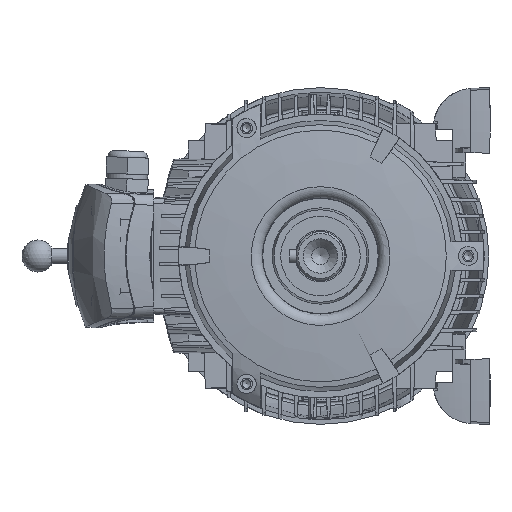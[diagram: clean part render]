
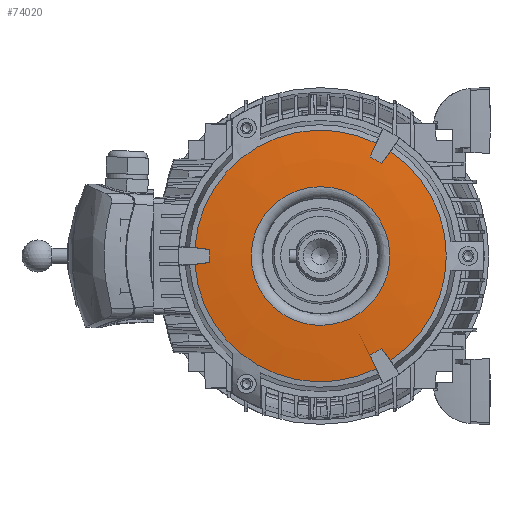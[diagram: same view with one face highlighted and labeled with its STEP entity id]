
A CAD part, left-side view. The second image highlights one B-rep face of the part: STEP entity #74020.
In plain terms, the highlighted free-form (B-spline) face has degree [2, 2] with [3, 9] control points.
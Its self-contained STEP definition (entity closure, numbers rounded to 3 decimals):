
#73668=CARTESIAN_POINT('',(-87.935,-43.26,28.573));
#73669=VERTEX_POINT('',#73668);
#73677=CARTESIAN_POINT('',(-6.504,97.784,28.573));
#73678=VERTEX_POINT('',#73677);
#73679=CARTESIAN_POINT('',(0.0,0.0,28.573));
#73680=DIRECTION('',(0.0,0.0,-1.0));
#73681=DIRECTION('',(-1.0,0.0,0.0));
#73682=AXIS2_PLACEMENT_3D('',#73679,#73680,#73681);
#73683=CIRCLE('',#73682,98.);
#73684=EDGE_CURVE('',#73669,#73678,#73683,.T.);
#73874=CARTESIAN_POINT('',(-98.061,0.,28.565));
#73875=CARTESIAN_POINT('',(-49.199,0.,35.056));
#73876=CARTESIAN_POINT('',(0.,0.,32.056));
#73877=CARTESIAN_POINT('',(-98.061,98.061,28.565));
#73878=CARTESIAN_POINT('',(-49.199,49.199,35.056));
#73879=CARTESIAN_POINT('',(0.,0.,32.056));
#73880=CARTESIAN_POINT('',(0.,98.061,28.565));
#73881=CARTESIAN_POINT('',(0.,49.199,35.056));
#73882=CARTESIAN_POINT('',(0.,0.,32.056));
#73883=CARTESIAN_POINT('',(98.061,98.061,28.565));
#73884=CARTESIAN_POINT('',(49.199,49.199,35.056));
#73885=CARTESIAN_POINT('',(0.,0.,32.056));
#73886=CARTESIAN_POINT('',(98.061,0.,28.565));
#73887=CARTESIAN_POINT('',(49.199,0.,35.056));
#73888=CARTESIAN_POINT('',(0.,0.,32.056));
#73889=CARTESIAN_POINT('',(98.061,-98.061,28.565));
#73890=CARTESIAN_POINT('',(49.199,-49.199,35.056));
#73891=CARTESIAN_POINT('',(0.,0.,32.056));
#73892=CARTESIAN_POINT('',(0.,-98.061,28.565));
#73893=CARTESIAN_POINT('',(0.,-49.199,35.056));
#73894=CARTESIAN_POINT('',(0.,0.,32.056));
#73895=CARTESIAN_POINT('',(-98.061,-98.061,28.565));
#73896=CARTESIAN_POINT('',(-49.199,-49.199,35.056));
#73897=CARTESIAN_POINT('',(0.,0.,32.056));
#73898=CARTESIAN_POINT('',(-98.061,0.,28.565));
#73899=CARTESIAN_POINT('',(-49.199,0.,35.056));
#73900=CARTESIAN_POINT('',(0.,0.,32.056));
#73908=(BOUNDED_SURFACE()B_SPLINE_SURFACE(2,2,((#73874,#73877,#73880,#73883,#73886,#73889,#73892,#73895,#73898),(#73875,#73878,#73881,#73884,#73887,#73890,#73893,#73896,#73899),(#73876,#73879,#73882,#73885,#73888,#73891,#73894,#73897,#73900)),.UNSPECIFIED.,.F.,.T.,.U.)B_SPLINE_SURFACE_WITH_KNOTS((3,3),(3,2,2,2,3),(1.439,1.632),(0.0,1.571,3.142,4.712,6.283),.UNSPECIFIED.)GEOMETRIC_REPRESENTATION_ITEM()RATIONAL_B_SPLINE_SURFACE(((1.0,0.707,1.0,0.707,1.0,0.707,1.0,0.707,1.0),(0.995,0.704,0.995,0.704,0.995,0.704,0.995,0.704,0.995),(1.0,0.707,1.0,0.707,1.0,0.707,1.0,0.707,1.0)))REPRESENTATION_ITEM('')SURFACE());
#73909=CARTESIAN_POINT('',(54.,0.0,32.48));
#73910=VERTEX_POINT('',#73909);
#73911=CARTESIAN_POINT('',(0.0,0.0,32.48));
#73912=DIRECTION('',(0.0,0.0,-1.0));
#73913=DIRECTION('',(1.0,0.0,0.0));
#73914=AXIS2_PLACEMENT_3D('',#73911,#73912,#73913);
#73915=CIRCLE('',#73914,54.);
#73916=EDGE_CURVE('',#73910,#73910,#73915,.T.);
#73917=ORIENTED_EDGE('',*,*,#73916,.T.);
#73918=EDGE_LOOP('',(#73917));
#73919=FACE_OUTER_BOUND('',#73918,.T.);
#73920=CARTESIAN_POINT('',(6.504,97.784,28.573));
#73921=VERTEX_POINT('',#73920);
#73922=CARTESIAN_POINT('',(87.935,-43.26,28.573));
#73923=VERTEX_POINT('',#73922);
#73924=CARTESIAN_POINT('',(0.0,0.0,28.573));
#73925=DIRECTION('',(0.0,0.0,-1.0));
#73926=DIRECTION('',(-1.0,0.0,0.0));
#73927=AXIS2_PLACEMENT_3D('',#73924,#73925,#73926);
#73928=CIRCLE('',#73927,98.);
#73929=EDGE_CURVE('',#73921,#73923,#73928,.T.);
#73930=ORIENTED_EDGE('',*,*,#73929,.F.);
#73931=CARTESIAN_POINT('',(5.03,86.049,30.));
#73932=VERTEX_POINT('',#73931);
#73933=CARTESIAN_POINT('',(5.03,86.049,30.));
#73934=CARTESIAN_POINT('',(5.676,89.945,29.572));
#73935=CARTESIAN_POINT('',(6.167,93.86,29.096));
#73936=CARTESIAN_POINT('',(6.504,97.784,28.573));
#73937=B_SPLINE_CURVE_WITH_KNOTS('',3,(#73933,#73934,#73935,#73936),.UNSPECIFIED.,.F.,.U.,(4,4),(56.172,57.362),.UNSPECIFIED.);
#73938=EDGE_CURVE('',#73932,#73921,#73937,.T.);
#73939=ORIENTED_EDGE('',*,*,#73938,.F.);
#73940=CARTESIAN_POINT('',(-5.03,86.049,30.));
#73941=VERTEX_POINT('',#73940);
#73942=CARTESIAN_POINT('',(0.0,0.0,30.));
#73943=DIRECTION('',(0.0,0.0,-1.0));
#73944=DIRECTION('',(1.0,0.0,0.0));
#73945=AXIS2_PLACEMENT_3D('',#73942,#73943,#73944);
#73946=CIRCLE('',#73945,86.196);
#73947=EDGE_CURVE('',#73941,#73932,#73946,.T.);
#73948=ORIENTED_EDGE('',*,*,#73947,.F.);
#73949=CARTESIAN_POINT('',(-6.504,97.784,28.573));
#73950=CARTESIAN_POINT('',(-6.167,93.86,29.096));
#73951=CARTESIAN_POINT('',(-5.676,89.946,29.572));
#73952=CARTESIAN_POINT('',(-5.03,86.049,30.));
#73953=B_SPLINE_CURVE_WITH_KNOTS('',3,(#73949,#73950,#73951,#73952),.UNSPECIFIED.,.F.,.U.,(4,4),(40.111,41.304),.UNSPECIFIED.);
#73954=EDGE_CURVE('',#73678,#73941,#73953,.T.);
#73955=ORIENTED_EDGE('',*,*,#73954,.F.);
#73956=ORIENTED_EDGE('',*,*,#73684,.F.);
#73957=CARTESIAN_POINT('',(-77.036,-38.668,30.));
#73958=VERTEX_POINT('',#73957);
#73959=CARTESIAN_POINT('',(-77.036,-38.668,30.));
#73960=CARTESIAN_POINT('',(-80.733,-40.057,29.572));
#73961=CARTESIAN_POINT('',(-84.368,-41.59,29.096));
#73962=CARTESIAN_POINT('',(-87.935,-43.26,28.573));
#73963=B_SPLINE_CURVE_WITH_KNOTS('',3,(#73959,#73960,#73961,#73962),.UNSPECIFIED.,.F.,.U.,(4,4),(56.172,57.362),.UNSPECIFIED.);
#73964=EDGE_CURVE('',#73958,#73669,#73963,.T.);
#73965=ORIENTED_EDGE('',*,*,#73964,.F.);
#73966=CARTESIAN_POINT('',(-72.005,-47.381,30.));
#73967=VERTEX_POINT('',#73966);
#73968=CARTESIAN_POINT('',(0.0,0.0,30.));
#73969=DIRECTION('',(0.0,0.0,-1.0));
#73970=DIRECTION('',(1.0,0.0,0.0));
#73971=AXIS2_PLACEMENT_3D('',#73968,#73969,#73970);
#73972=CIRCLE('',#73971,86.196);
#73973=EDGE_CURVE('',#73967,#73958,#73972,.T.);
#73974=ORIENTED_EDGE('',*,*,#73973,.F.);
#73975=CARTESIAN_POINT('',(-81.432,-54.524,28.573));
#73976=VERTEX_POINT('',#73975);
#73977=CARTESIAN_POINT('',(-81.432,-54.524,28.573));
#73978=CARTESIAN_POINT('',(-78.202,-52.271,29.096));
#73979=CARTESIAN_POINT('',(-75.057,-49.888,29.572));
#73980=CARTESIAN_POINT('',(-72.005,-47.381,30.));
#73981=B_SPLINE_CURVE_WITH_KNOTS('',3,(#73977,#73978,#73979,#73980),.UNSPECIFIED.,.F.,.U.,(4,4),(40.111,41.304),.UNSPECIFIED.);
#73982=EDGE_CURVE('',#73976,#73967,#73981,.T.);
#73983=ORIENTED_EDGE('',*,*,#73982,.F.);
#73984=CARTESIAN_POINT('',(81.432,-54.524,28.573));
#73985=VERTEX_POINT('',#73984);
#73986=CARTESIAN_POINT('',(0.0,0.0,28.573));
#73987=DIRECTION('',(0.0,0.0,-1.0));
#73988=DIRECTION('',(-1.0,0.0,0.0));
#73989=AXIS2_PLACEMENT_3D('',#73986,#73987,#73988);
#73990=CIRCLE('',#73989,98.);
#73991=EDGE_CURVE('',#73985,#73976,#73990,.T.);
#73992=ORIENTED_EDGE('',*,*,#73991,.F.);
#73993=CARTESIAN_POINT('',(72.005,-47.381,30.));
#73994=VERTEX_POINT('',#73993);
#73995=CARTESIAN_POINT('',(72.005,-47.381,30.));
#73996=CARTESIAN_POINT('',(75.057,-49.888,29.572));
#73997=CARTESIAN_POINT('',(78.202,-52.27,29.096));
#73998=CARTESIAN_POINT('',(81.432,-54.524,28.573));
#73999=B_SPLINE_CURVE_WITH_KNOTS('',3,(#73995,#73996,#73997,#73998),.UNSPECIFIED.,.F.,.U.,(4,4),(56.172,57.362),.UNSPECIFIED.);
#74000=EDGE_CURVE('',#73994,#73985,#73999,.T.);
#74001=ORIENTED_EDGE('',*,*,#74000,.F.);
#74002=CARTESIAN_POINT('',(77.036,-38.668,30.));
#74003=VERTEX_POINT('',#74002);
#74004=CARTESIAN_POINT('',(0.0,0.0,30.));
#74005=DIRECTION('',(0.0,0.0,-1.0));
#74006=DIRECTION('',(1.0,0.0,0.0));
#74007=AXIS2_PLACEMENT_3D('',#74004,#74005,#74006);
#74008=CIRCLE('',#74007,86.196);
#74009=EDGE_CURVE('',#74003,#73994,#74008,.T.);
#74010=ORIENTED_EDGE('',*,*,#74009,.F.);
#74011=CARTESIAN_POINT('',(87.935,-43.26,28.573));
#74012=CARTESIAN_POINT('',(84.369,-41.59,29.096));
#74013=CARTESIAN_POINT('',(80.733,-40.058,29.572));
#74014=CARTESIAN_POINT('',(77.036,-38.668,30.));
#74015=B_SPLINE_CURVE_WITH_KNOTS('',3,(#74011,#74012,#74013,#74014),.UNSPECIFIED.,.F.,.U.,(4,4),(40.111,41.304),.UNSPECIFIED.);
#74016=EDGE_CURVE('',#73923,#74003,#74015,.T.);
#74017=ORIENTED_EDGE('',*,*,#74016,.F.);
#74018=EDGE_LOOP('',(#73930,#73939,#73948,#73955,#73956,#73965,#73974,#73983,#73992,#74001,#74010,#74017));
#74019=FACE_BOUND('',#74018,.T.);
#74020=ADVANCED_FACE('',(#73919,#74019),#73908,.T.);
